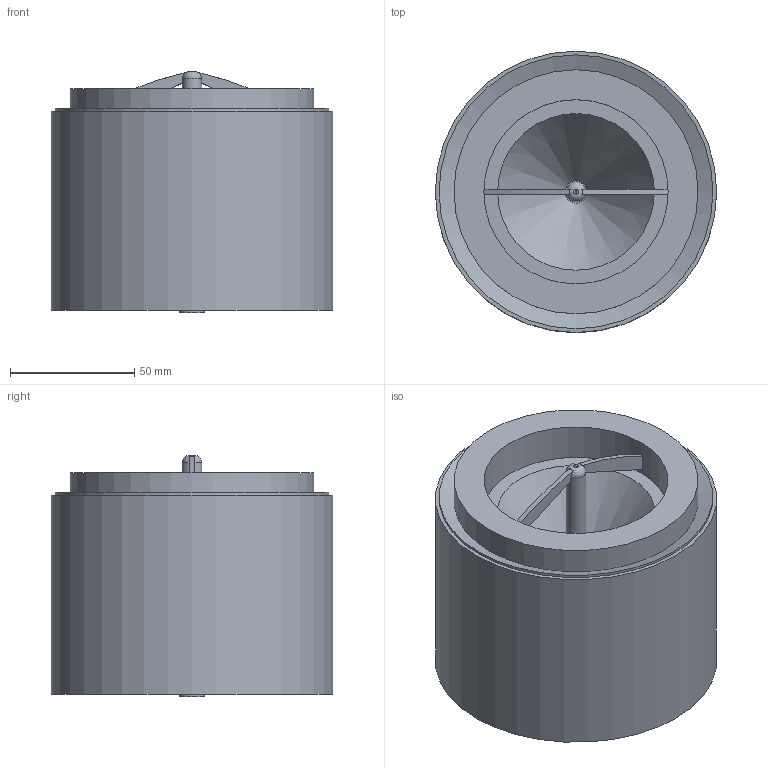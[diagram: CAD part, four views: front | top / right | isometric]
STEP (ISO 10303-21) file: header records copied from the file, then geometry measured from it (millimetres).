
FILE_DESCRIPTION(/* description */ (''),/* implementation_level */ '2;1');
FILE_NAME(/* name */ 'D:\TK Lighting\2021\Moris\3364\Moris 3364.stp',/* time_stamp */ '2021-02-01T21:55:57+01:00',/* author */ ('Admin'),/* organization */ (''),/* preprocessor_version */ 'ST-DEVELOPER v16.5',/* originating_system */ 'Autodesk Inventor 2017',/* authorisation */ '');
FILE_SCHEMA (('AUTOMOTIVE_DESIGN { 1 0 10303 214 3 1 1 }'));
Length unit declared in the file: millimetre
Products named in the file (1): Moris 3364
Bounding box: 113 x 113 x 97.06 mm (x, y, z)
Surface area: 681893.1 mm2
Topology: 2 solids, 3 shells, 38 faces, 89 edges, 59 vertices
Faces by surface type: plane 20, cylinder 13, cone 4, bspline 1
Full cylindrical faces by diameter (mm): 8 x1, 10 x1, 74 x1, 76 x1, 96 x1, 98 x1, 110 x2, 113 x1
Entity records: 1149 total; most frequent: CARTESIAN_POINT 266, DIRECTION 169, ORIENTED_EDGE 142, AXIS2_PLACEMENT_3D 77, EDGE_CURVE 70, EDGE_LOOP 60, VERTEX_POINT 54, FACE_OUTER_BOUND 38
